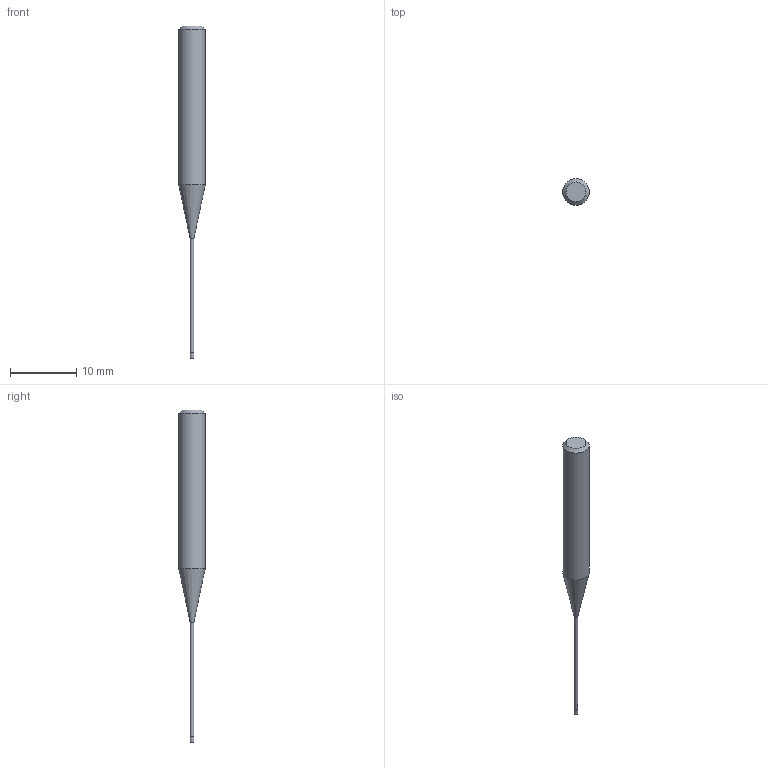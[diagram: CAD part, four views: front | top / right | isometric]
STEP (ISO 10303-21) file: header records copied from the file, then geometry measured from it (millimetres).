
FILE_DESCRIPTION((''),'2;1');
FILE_NAME('C:\Users\nsx150\AppData\Local\Temp\Mastercam 2021\17T8Q8S9EB\TEMP.step','2021-04-21T14:25:02',(''),(''),'STEP Write','Mastercam 2021 ... CNC Software, Inc.','');
FILE_SCHEMA(('AUTOMOTIVE_DESIGN'));
Length unit declared in the file: millimetre
Products named in the file (1): None
Bounding box: 4 x 4 x 50 mm (x, y, z)
Volume: 342.8 mm3; surface area: 400.8 mm2
Topology: 2 solids, 2 shells, 9 faces, 12 edges, 7 vertices
Faces by surface type: plane 4, cylinder 3, cone 2
Full cylindrical faces by diameter (mm): 0.56 x1, 0.6 x1, 4 x1
Entity records: 211 total; most frequent: DIRECTION 36, CARTESIAN_POINT 25, AXIS2_PLACEMENT_3D 18, ORIENTED_EDGE 14, EDGE_LOOP 14, STYLED_ITEM 12, ADVANCED_FACE 9, FACE_BOUND 8
